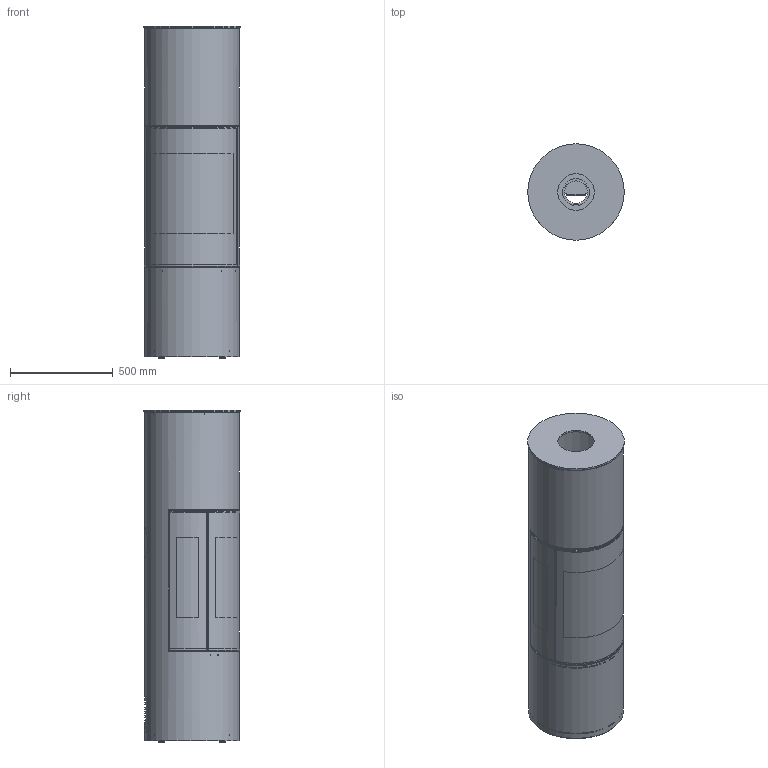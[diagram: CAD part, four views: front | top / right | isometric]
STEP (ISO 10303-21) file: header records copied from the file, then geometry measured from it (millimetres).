
FILE_DESCRIPTION(/* description */ (''),/* implementation_level */ '2;1');
FILE_NAME(/* name */ '388 Viva 160 L G Gas.stp',/* time_stamp */ '2023-11-30T12:26:39+01:00',/* author */ ('ksj'),/* organization */ (''),/* preprocessor_version */ 'ST-DEVELOPER v19.2',/* originating_system */ 'Autodesk Inventor 2023',/* authorisation */ '');
FILE_SCHEMA (('AUTOMOTIVE_DESIGN { 1 0 10303 214 3 1 1 }'));
Products named in the file (1): 388 Viva 160 L G Gas
Bounding box: 470 x 470 x 1618 mm (x, y, z)
Volume: 13756162.4 mm3; surface area: 8215970.3 mm2
Topology: 48 solids, 48 shells, 3172 faces, 8658 edges, 5594 vertices
Faces by surface type: plane 1958, cylinder 1143, bspline 39, torus 20, cone 12
Full cylindrical faces by diameter (mm): 8 x4, 32 x4, 110 x2, 159 x2, 178 x1, 456 x1, 462 x1, 470 x1
Entity records: 107663 total; most frequent: CARTESIAN_POINT 22138, ORIENTED_EDGE 17312, DIRECTION 17142, EDGE_CURVE 8656, LINE 5746, VECTOR 5746, AXIS2_PLACEMENT_3D 5698, VERTEX_POINT 5590
